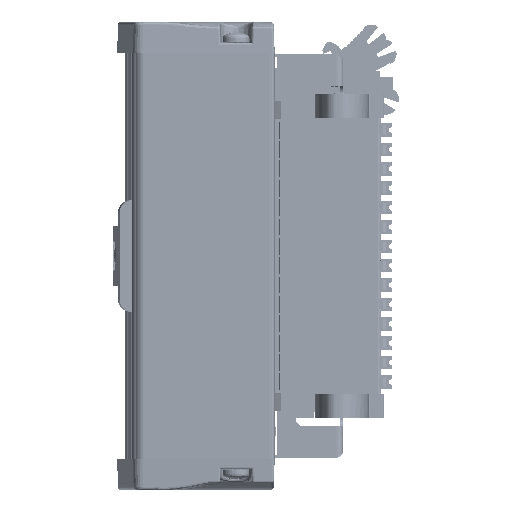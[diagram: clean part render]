
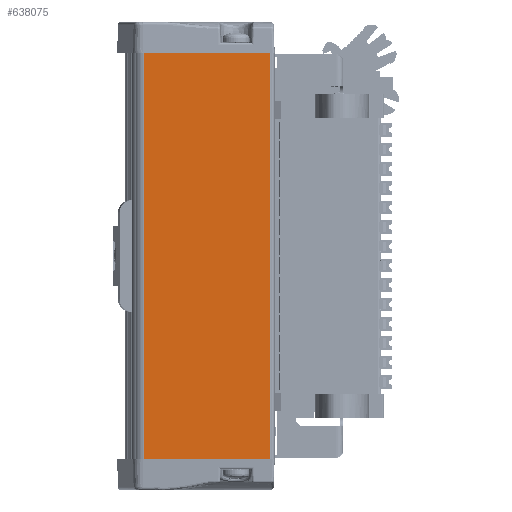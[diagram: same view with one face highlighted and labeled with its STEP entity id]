
A CAD part, front view. The second image highlights one B-rep face of the part: STEP entity #638075.
In plain terms, the highlighted planar face has unit normal (0, -1, 0).
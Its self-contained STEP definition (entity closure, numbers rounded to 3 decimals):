
#64446 = LINE ( 'NONE', #537725, #687758 ) ;
#84624 = ORIENTED_EDGE ( 'NONE', *, *, #136830, .T. ) ;
#101990 = LINE ( 'NONE', #931055, #699827 ) ;
#136830 = EDGE_CURVE ( 'NONE', #572497, #257330, #64446, .T. ) ;
#152401 = ORIENTED_EDGE ( 'NONE', *, *, #1054626, .T. ) ;
#153241 = LINE ( 'NONE', #625101, #343827 ) ;
#205903 = DIRECTION ( 'NONE',  ( 0., -1., 0. ) ) ;
#219812 = DIRECTION ( 'NONE',  ( 0., 0., -1. ) ) ;
#257330 = VERTEX_POINT ( 'NONE', #931263 ) ;
#296658 = VECTOR ( 'NONE', #300045, 1000. ) ;
#300045 = DIRECTION ( 'NONE',  ( -1., 0., 0. ) ) ;
#343827 = VECTOR ( 'NONE', #219812, 1000. ) ;
#405956 = VERTEX_POINT ( 'NONE', #928208 ) ;
#456285 = CARTESIAN_POINT ( 'NONE',  ( 13.675, -52.5, -136.25 ) ) ;
#520610 = ORIENTED_EDGE ( 'NONE', *, *, #646945, .T. ) ;
#525728 = DIRECTION ( 'NONE',  ( 1., 0., 0. ) ) ;
#537725 = CARTESIAN_POINT ( 'NONE',  ( 13.675, -52.5, -126.25 ) ) ;
#555000 = ORIENTED_EDGE ( 'NONE', *, *, #810372, .T. ) ;
#563514 = EDGE_LOOP ( 'NONE', ( #520610, #84624, #152401, #555000 ) ) ;
#572497 = VERTEX_POINT ( 'NONE', #456285 ) ;
#617812 = CARTESIAN_POINT ( 'NONE',  ( -11.031, -52.5, -136.25 ) ) ;
#625101 = CARTESIAN_POINT ( 'NONE',  ( -11.031, -52.5, -126.25 ) ) ;
#638075 = ADVANCED_FACE ( 'NONE', ( #1048353 ), #852973, .T. ) ;
#646945 = EDGE_CURVE ( 'NONE', #958394, #572497, #101990, .T. ) ;
#651864 = AXIS2_PLACEMENT_3D ( 'NONE', #692743, #205903, #774584 ) ;
#687758 = VECTOR ( 'NONE', #1025111, 1000. ) ;
#692743 = CARTESIAN_POINT ( 'NONE',  ( 13.675, -52.5, -126.25 ) ) ;
#699827 = VECTOR ( 'NONE', #525728, 1000. ) ;
#703617 = LINE ( 'NONE', #712248, #296658 ) ;
#712248 = CARTESIAN_POINT ( 'NONE',  ( 13.675, -52.5, -56.25 ) ) ;
#774584 = DIRECTION ( 'NONE',  ( 0., 0., -1. ) ) ;
#810372 = EDGE_CURVE ( 'NONE', #405956, #958394, #153241, .T. ) ;
#852973 = PLANE ( 'NONE',  #651864 ) ;
#928208 = CARTESIAN_POINT ( 'NONE',  ( -11.031, -52.5, -56.25 ) ) ;
#931055 = CARTESIAN_POINT ( 'NONE',  ( -5.494, -52.5, -136.25 ) ) ;
#931263 = CARTESIAN_POINT ( 'NONE',  ( 13.675, -52.5, -56.25 ) ) ;
#958394 = VERTEX_POINT ( 'NONE', #617812 ) ;
#1025111 = DIRECTION ( 'NONE',  ( 0., 0., 1. ) ) ;
#1048353 = FACE_OUTER_BOUND ( 'NONE', #563514, .T. ) ;
#1054626 = EDGE_CURVE ( 'NONE', #257330, #405956, #703617, .T. ) ;
